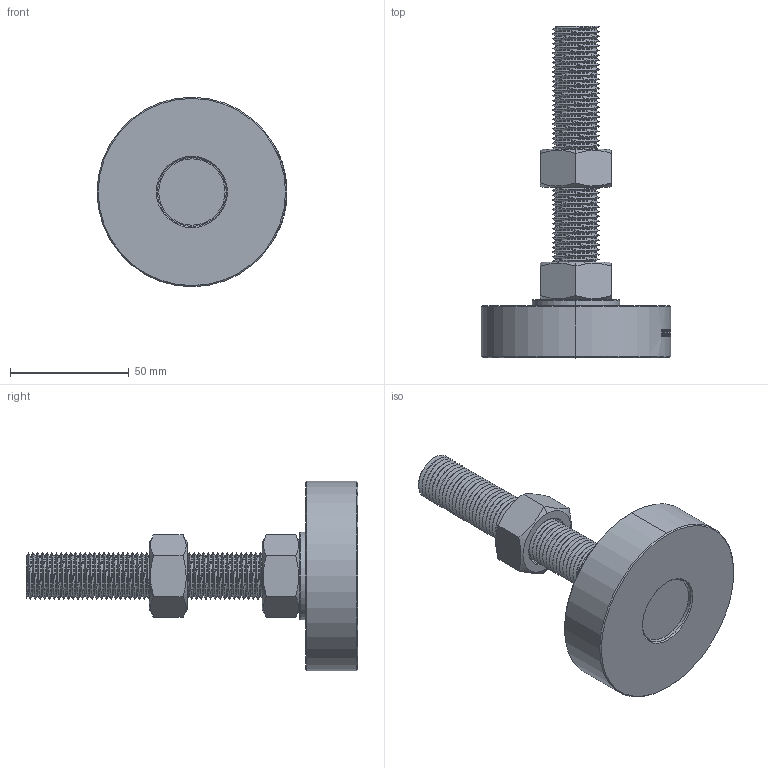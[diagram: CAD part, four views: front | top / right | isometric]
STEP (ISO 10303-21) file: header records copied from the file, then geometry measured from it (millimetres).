
FILE_DESCRIPTION (( 'STEP AP214' ), '1' );
FILE_NAME ('D80M20H140.STEP', '2020-08-26T04:40:55', ( '' ), ( '' ), 'SwSTEP 2.0', 'SolidWorks 2018', '' );
FILE_SCHEMA (( 'AUTOMOTIVE_DESIGN' ));
Length unit declared in the file: millimetre
Products named in the file (1): D80M20H140
Bounding box: 80.1 x 140 x 80 mm (x, y, z)
Volume: 154692.5 mm3; surface area: 37343.2 mm2
Topology: 2 solids, 2 shells, 417 faces, 1087 edges, 695 vertices
Faces by surface type: cylinder 230, plane 125, bspline 40, cone 20, torus 2
Entity records: 23861 total; most frequent: CARTESIAN_POINT 12159, ORIENTED_EDGE 2174, DIRECTION 1429, EDGE_CURVE 1087, VERTEX_POINT 695, AXIS2_PLACEMENT_3D 522, EDGE_LOOP 440, ADVANCED_FACE 417
